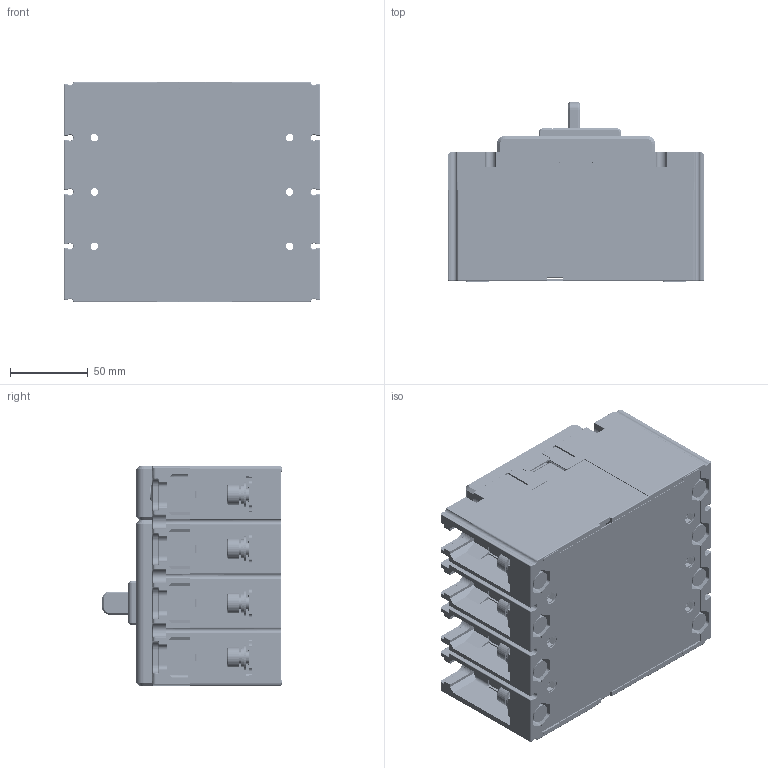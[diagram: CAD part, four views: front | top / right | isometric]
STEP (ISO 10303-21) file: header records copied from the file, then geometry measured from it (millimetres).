
FILE_DESCRIPTION((''),'2;1');
FILE_NAME('CDM6I-250M_H_4P_160A__ASM','2025-11-04T',('Administrator'),(''),'PRO/ENGINEER BY PARAMETRIC TECHNOLOGY CORPORATION, 2015440','PRO/ENGINEER BY PARAMETRIC TECHNOLOGY CORPORATION, 2015440','');
FILE_SCHEMA(('CONFIG_CONTROL_DESIGN'));
Products named in the file (31): JZ-5024044600_2_1_1; GB_T809-M3X12_8_1_1; 5024044600_ASM_2_ASM_1_ASM_1_ASM; 8940007200_8_1_1; 8253076600_8_1_1; 5253029200_ASM_9_ASM_1_ASM_1_ASM; 8751002100_4_1_1; 8750029700_4_1_1; GB_T809-M3X8_8_1_1; 5315050100_ASM_4_ASM_1_ASM_1_ASM; 8282018100_AF1_8_1_1; 5315051300_ASM_4_ASM_1_ASM_1_ASM; 8315095900_8_1_1; 8315096000_5_1_1; 7010100305R01_GB_T823_M3X10_8_1; 7090300201_GB_T93_3_8_1_1; GB_T97_4_3_8_1_1; 5850007700_ASM_8_ASM_1_ASM_1_ASM; 5315051500_ASM_5_ASM_1_ASM_1_ASM; 8742102800_5_1_1; GB_T70_1-M8X20_8_1_1; 7090200704_GB_T97_1_8_8_1_1; 7090370701K_GB_T93_8_8_1_1; 5850004100_ASM_9_ASM_1_ASM_1_ASM; CDM3V-250F4P_ASM_7_ASM_1_ASM_1_ASM; ZG-5315076400_1; GB_T809-M3X8_1; 5315076400_ASM_1_ASM; CDM3V-250F4P_ASM_7_ASM_ASM_1_ASM; 8585064200; CDM6I-250M_H_4P_160A__ASM
Assembly tree (81 placements, depth 7):
  CDM6I-250M_H_4P_160A__ASM
    CDM3V-250F4P_ASM_7_ASM_ASM_1_ASM
      CDM3V-250F4P_ASM_7_ASM_1_ASM_1_ASM
        5024044600_ASM_2_ASM_1_ASM_1_ASM
          JZ-5024044600_2_1_1
          GB_T809-M3X12_8_1_1  x10
        8940007200_8_1_1  x8
        5253029200_ASM_9_ASM_1_ASM_1_ASM
          8253076600_8_1_1
        8751002100_4_1_1  x4
        8750029700_4_1_1  x4
        5315051500_ASM_5_ASM_1_ASM_1_ASM
          5315051300_ASM_4_ASM_1_ASM_1_ASM
            5315050100_ASM_4_ASM_1_ASM_1_ASM
              GB_T809-M3X8_8_1_1  x6
            8282018100_AF1_8_1_1
          8315095900_8_1_1
          8315096000_5_1_1
          5850007700_ASM_8_ASM_1_ASM_1_ASM  x6
            7010100305R01_GB_T823_M3X10_8_1
            7090300201_GB_T93_3_8_1_1
            GB_T97_4_3_8_1_1
        8742102800_5_1_1
        5850004100_ASM_9_ASM_1_ASM_1_ASM  x8
          GB_T70_1-M8X20_8_1_1
          7090200704_GB_T97_1_8_8_1_1
          7090370701K_GB_T93_8_8_1_1
      5315076400_ASM_1_ASM
        ZG-5315076400_1
        GB_T809-M3X8_1  x6
    8585064200  x8
Bounding box: 165 x 116 x 142 mm (x, y, z)
Volume: 1358503.5 mm3; surface area: 419741.4 mm2
Topology: 95 solids, 155 shells, 7829 faces, 20459 edges, 12805 vertices
Faces by surface type: plane 3593, cylinder 2790, torus 570, cone 360, sphere 244, bspline 151, extrusion 121
Entity records: 205576 total; most frequent: CARTESIAN_POINT 52047, DIRECTION 32142, ORIENTED_EDGE 32094, EDGE_CURVE 16061, AXIS2_PLACEMENT_3D 10998, VERTEX_POINT 10152, VECTOR 10146, LINE 10025
